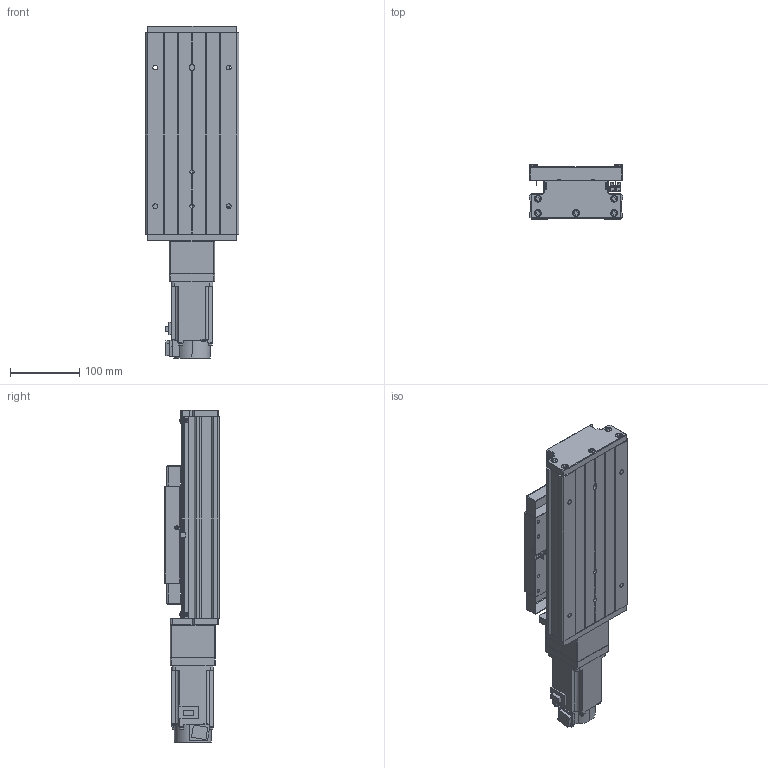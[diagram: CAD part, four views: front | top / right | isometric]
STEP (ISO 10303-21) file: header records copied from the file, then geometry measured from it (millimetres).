
FILE_DESCRIPTION (( 'STEP AP203' ), '1' );
FILE_NAME ('GTH14-50-BC-M40-C4.step', '2023-06-30T08:34:13', ( '微软用户' ), ( '微软中国' ), 'SwSTEP 2.0', 'SolidWorks 2020', '' );
FILE_SCHEMA (( 'CONFIG_CONTROL_DESIGN' ));
Length unit declared in the file: millimetre
Products named in the file (20): GTH14-002_GTH14-002; EE_SX911P_R; GBT 70.3-M3℅8; CTHA86-013; GTH14-004; CTHA60-016; GTH14-50-BC-M40-C4; GTH14-005; GBT 70.1-M3℅5; GB1155-6X6; GBT77-2000 M3×3; GBT70.1 M5℅16; GTH14-031; GBT 70.2-M3¡Á5_M3¡Á6; CTHA86-027-1; す晦芛蹟隊 M3℅5; GTH14-001_50; CTHA60-017; HG-KN43J-S100; CTHA86-006-1_M40
Assembly tree (57 placements, depth 2):
  GTH14-50-BC-M40-C4
    GTH14-001_50
    GTH14-002_GTH14-002
    GTH14-004
    GTH14-005
    GB1155-6X6  x2
    GBT70.1 M5℅16  x10
    GBT 70.2-M3¡Á5_M3¡Á6  x8
    CTHA60-017  x3
    EE_SX911P_R  x3
    CTHA60-016  x2
    GBT 70.1-M3℅5  x6
    GBT77-2000 M3×3  x6
    GTH14-031
    す晦芛蹟隊 M3℅5  x6
    CTHA86-006-1_M40
    CTHA86-013
    CTHA86-027-1
    HG-KN43J-S100
    GBT 70.3-M3℅8  x2
Bounding box: 135 x 78 x 478.7 mm (x, y, z)
Volume: 2491560.4 mm3; surface area: 457207.7 mm2
Topology: 60 solids, 60 shells, 2384 faces, 5685 edges, 3506 vertices
Faces by surface type: plane 1296, cylinder 624, cone 304, torus 120, sphere 20, bspline 20
Entity records: 43496 total; most frequent: CARTESIAN_POINT 9747, DIRECTION 6336, ORIENTED_EDGE 6254, EDGE_CURVE 3127, AXIS2_PLACEMENT_3D 2139, LINE 2058, VECTOR 2058, VERTEX_POINT 1974
